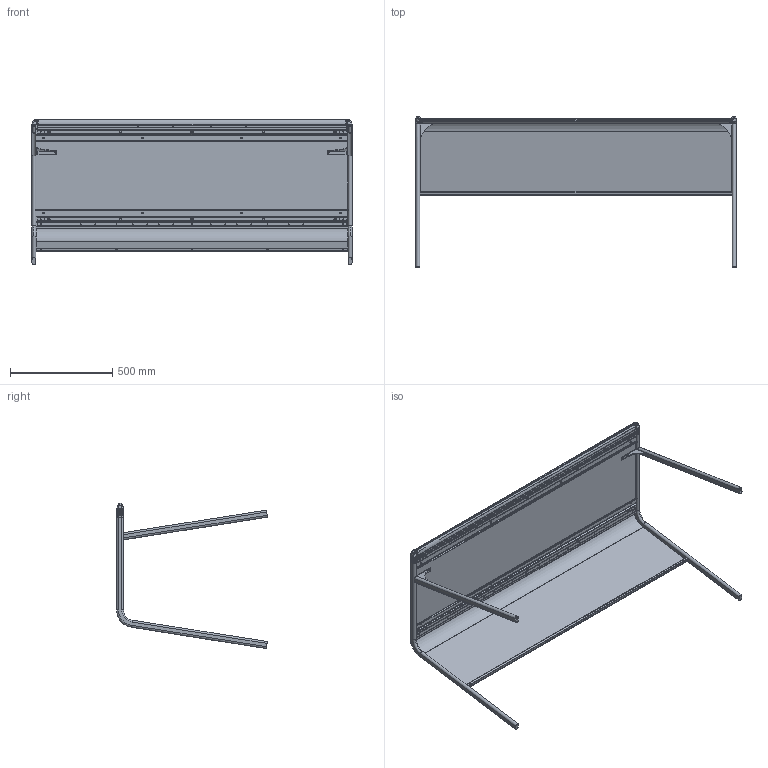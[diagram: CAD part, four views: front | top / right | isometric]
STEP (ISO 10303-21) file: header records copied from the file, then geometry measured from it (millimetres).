
FILE_DESCRIPTION (( 'STEP AP214' ), '1' );
FILE_NAME ('XAND-TS2460-30H.STEP', '2014-08-06T23:19:01', ( '' ), ( '' ), 'SwSTEP 2.0', 'SolidWorks 2014', '' );
FILE_SCHEMA (( 'AUTOMOTIVE_DESIGN' ));
Length unit declared in the file: inch
Products named in the file (13): TOP_2460 REC TOP; XAND-TS2460-30H; MOD PANEL CROSS BAR; FRONT PLASTIC_single wide; k leg front upright; RIGHT FRONT CORNER PLASTIC; GUSSET mirrored; TEACHER DESK HAT CHANNEL_60 table; K LEG ASSEMBLY; TEACHER MOD PANEL_512430; GUSSET; LEFT FRONT CORNER PLASTIC; K LEG
Assembly tree (14 placements, depth 3):
  XAND-TS2460-30H
    TOP_2460 REC TOP
    K LEG ASSEMBLY  x2
      K LEG
      k leg front upright
    TEACHER DESK HAT CHANNEL_60 table  x2
    TEACHER MOD PANEL_512430
    MOD PANEL CROSS BAR
    LEFT FRONT CORNER PLASTIC
    RIGHT FRONT CORNER PLASTIC
    FRONT PLASTIC_single wide
    GUSSET
    GUSSET mirrored
Bounding box: 1564.57 x 736.87 x 708.95 mm (x, y, z)
Volume: 15399920.4 mm3; surface area: 4709862.1 mm2
Topology: 16 solids, 16 shells, 1088 faces, 2866 edges, 1800 vertices
Faces by surface type: cylinder 410, plane 344, bspline 214, cone 82, torus 22, sphere 16
Entity records: 59125 total; most frequent: CARTESIAN_POINT 36233, ORIENTED_EDGE 4964, DIRECTION 4112, EDGE_CURVE 2482, VERTEX_POINT 1564, AXIS2_PLACEMENT_3D 1542, EDGE_LOOP 1094, VECTOR 1028
